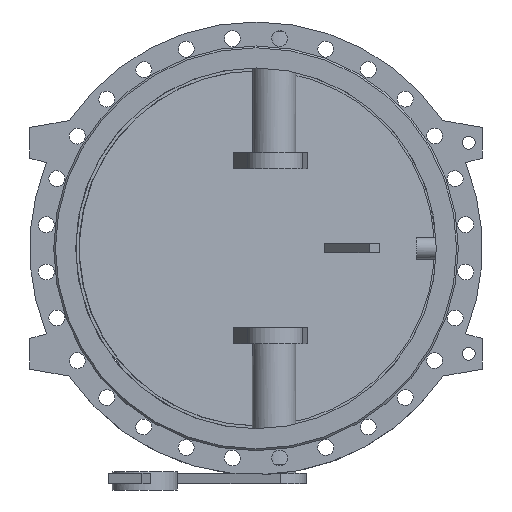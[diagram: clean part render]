
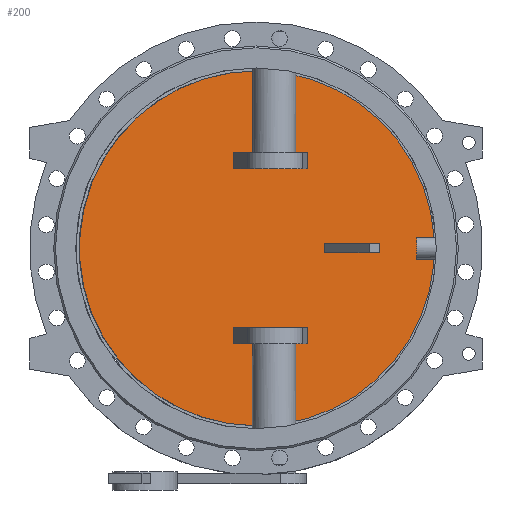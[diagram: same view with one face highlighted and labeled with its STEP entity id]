
A CAD part, front view. The second image highlights one B-rep face of the part: STEP entity #200.
In plain terms, the highlighted planar face has unit normal (0.131, -0.991, 0).
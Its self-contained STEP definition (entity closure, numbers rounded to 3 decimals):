
#200=ADVANCED_FACE('',(#1592,#1594,#1596,#1598),#1600,.T.);
#1592=FACE_BOUND('',#1593,.T.);
#1593=EDGE_LOOP('',(#3110));
#1594=FACE_BOUND('',#1595,.T.);
#1595=EDGE_LOOP('',(#3111,#3112,#3113,#3114));
#1596=FACE_BOUND('',#1597,.T.);
#1597=EDGE_LOOP('',(#3115,#3116,#3117,#3118));
#1598=FACE_BOUND('',#1599,.T.);
#1599=EDGE_LOOP('',(#3119,#3120,#3121,#3122));
#1600=PLANE('',#1601);
#1601=AXIS2_PLACEMENT_3D('',#1602,#1603,#1604);
#1602=CARTESIAN_POINT('',(-1.272,9.66,0.));
#1603=DIRECTION('',(0.131,-0.991,0.));
#1604=DIRECTION('',(0.,0.,-1.));
#3110=ORIENTED_EDGE('',*,*,#3745,.T.);
#3111=ORIENTED_EDGE('',*,*,#3749,.F.);
#3112=ORIENTED_EDGE('',*,*,#3750,.F.);
#3113=ORIENTED_EDGE('',*,*,#3751,.F.);
#3114=ORIENTED_EDGE('',*,*,#3752,.F.);
#3115=ORIENTED_EDGE('',*,*,#3753,.F.);
#3116=ORIENTED_EDGE('',*,*,#3754,.F.);
#3117=ORIENTED_EDGE('',*,*,#3755,.F.);
#3118=ORIENTED_EDGE('',*,*,#3756,.F.);
#3119=ORIENTED_EDGE('',*,*,#3757,.F.);
#3120=ORIENTED_EDGE('',*,*,#3758,.F.);
#3121=ORIENTED_EDGE('',*,*,#3759,.F.);
#3122=ORIENTED_EDGE('',*,*,#3760,.F.);
#3745=EDGE_CURVE('',#4099,#4099,#4100,.T.);
#3749=EDGE_CURVE('',#4107,#4108,#4109,.T.);
#3750=EDGE_CURVE('',#4110,#4107,#4111,.F.);
#3751=EDGE_CURVE('',#4112,#4110,#4113,.T.);
#3752=EDGE_CURVE('',#4108,#4112,#4114,.T.);
#3753=EDGE_CURVE('',#4115,#4116,#4117,.F.);
#3754=EDGE_CURVE('',#4118,#4115,#4119,.T.);
#3755=EDGE_CURVE('',#4120,#4118,#4121,.T.);
#3756=EDGE_CURVE('',#4116,#4120,#4122,.T.);
#3757=EDGE_CURVE('',#4123,#4124,#4125,.T.);
#3758=EDGE_CURVE('',#4126,#4123,#4127,.F.);
#3759=EDGE_CURVE('',#4128,#4126,#4129,.F.);
#3760=EDGE_CURVE('',#4124,#4128,#4130,.F.);
#4099=VERTEX_POINT('',#5310);
#4100=B_SPLINE_CURVE_WITH_KNOTS('',3,
(#5311,#5312,#5313,#5314,#5315,#5316,#5317,#5318,#5319,#5320,#5321,#5322,#5323,#5324,
#5325,#5326,#5327,#5328,#5329,#5330,#5331,#5332,#5333,#5334,#5335,#5336,#5337,#5338,
#5339,#5340,#5341,#5342,#5343,#5344,#5345,#5346,#5347,#5348,#5349,#5350,#5351,#5352,
#5353,#5354,#5355,#5356,#5357,#5358,#5359,#5360,#5361),
.UNSPECIFIED.,.T.,.F.,
(4,1,1,1,1,1,1,1,1,1,1,1,1,1,1,1,1,1,1,1,1,1,1,1,1,1,1,1,1,1,1,1,1,1,1,1,1,1,1,1,
1,1,1,1,1,1,1,1,4),
(0.,0.021,0.042,0.063,0.084,
0.105,0.126,0.147,0.168,0.189,
0.211,0.232,0.253,0.274,0.295,
0.316,0.337,0.358,0.379,0.4,
0.421,0.442,0.463,0.484,0.505,
0.527,0.548,0.569,0.59,0.611,
0.632,0.653,0.674,0.695,0.716,
0.737,0.758,0.779,0.8,0.821,
0.842,0.864,0.885,0.906,0.927,
0.948,0.969,0.986,1.),
.UNSPECIFIED.);
#4107=VERTEX_POINT('',#5424);
#4108=VERTEX_POINT('',#5425);
#4109=LINE('',#5426,#5427);
#4110=VERTEX_POINT('',#5429);
#4111=LINE('',#5430,#5431);
#4112=VERTEX_POINT('',#5433);
#4113=LINE('',#5434,#5435);
#4114=LINE('',#5437,#5438);
#4115=VERTEX_POINT('',#5440);
#4116=VERTEX_POINT('',#5441);
#4117=LINE('',#5442,#5443);
#4118=VERTEX_POINT('',#5445);
#4119=LINE('',#5446,#5447);
#4120=VERTEX_POINT('',#5449);
#4121=LINE('',#5450,#5451);
#4122=LINE('',#5453,#5454);
#4123=VERTEX_POINT('',#5456);
#4124=VERTEX_POINT('',#5457);
#4125=LINE('',#5458,#5459);
#4126=VERTEX_POINT('',#5461);
#4127=LINE('',#5462,#5463);
#4128=VERTEX_POINT('',#5465);
#4129=LINE('',#5466,#5467);
#4130=LINE('',#5469,#5470);
#5310=CARTESIAN_POINT('',(2.611,10.171,492.));
#5311=CARTESIAN_POINT('',(2.611,10.171,492.));
#5312=CARTESIAN_POINT('',(-19.012,7.324,492.));
#5313=CARTESIAN_POINT('',(-62.309,1.624,489.142));
#5314=CARTESIAN_POINT('',(-126.205,-6.788,476.332));
#5315=CARTESIAN_POINT('',(-187.936,-14.915,455.176));
#5316=CARTESIAN_POINT('',(-246.369,-22.608,426.038));
#5317=CARTESIAN_POINT('',(-300.428,-29.725,389.455));
#5318=CARTESIAN_POINT('',(-349.181,-36.143,346.062));
#5319=CARTESIAN_POINT('',(-391.774,-41.751,296.622));
#5320=CARTESIAN_POINT('',(-427.467,-46.45,242.002));
#5321=CARTESIAN_POINT('',(-455.638,-50.159,183.158));
#5322=CARTESIAN_POINT('',(-475.798,-52.813,121.116));
#5323=CARTESIAN_POINT('',(-487.596,-54.366,56.961));
#5324=CARTESIAN_POINT('',(-490.827,-54.791,-8.188));
#5325=CARTESIAN_POINT('',(-485.436,-54.081,-73.196));
#5326=CARTESIAN_POINT('',(-471.514,-52.249,-136.927));
#5327=CARTESIAN_POINT('',(-449.304,-49.325,-198.269));
#5328=CARTESIAN_POINT('',(-419.191,-45.36,-256.152));
#5329=CARTESIAN_POINT('',(-381.699,-40.424,-309.562));
#5330=CARTESIAN_POINT('',(-337.48,-34.603,-357.565));
#5331=CARTESIAN_POINT('',(-287.304,-27.997,-399.319));
#5332=CARTESIAN_POINT('',(-232.047,-20.722,-434.089));
#5333=CARTESIAN_POINT('',(-172.677,-12.906,-461.265));
#5334=CARTESIAN_POINT('',(-110.233,-4.685,-480.368));
#5335=CARTESIAN_POINT('',(-45.809,3.797,-491.059));
#5336=CARTESIAN_POINT('',(19.464,12.39,-493.152));
#5337=CARTESIAN_POINT('',(84.44,20.944,-486.61));
#5338=CARTESIAN_POINT('',(147.979,29.309,-471.547));
#5339=CARTESIAN_POINT('',(208.967,37.338,-448.231));
#5340=CARTESIAN_POINT('',(266.336,44.891,-417.073));
#5341=CARTESIAN_POINT('',(319.083,51.836,-378.622));
#5342=CARTESIAN_POINT('',(366.287,58.05,-333.553));
#5343=CARTESIAN_POINT('',(407.125,63.426,-282.656));
#5344=CARTESIAN_POINT('',(440.885,67.871,-226.824));
#5345=CARTESIAN_POINT('',(466.982,71.307,-167.032));
#5346=CARTESIAN_POINT('',(484.96,73.674,-104.325));
#5347=CARTESIAN_POINT('',(494.509,74.931,-39.798));
#5348=CARTESIAN_POINT('',(495.461,75.056,25.425));
#5349=CARTESIAN_POINT('',(487.8,74.048,90.205));
#5350=CARTESIAN_POINT('',(471.659,71.923,153.412));
#5351=CARTESIAN_POINT('',(447.318,68.718,213.942));
#5352=CARTESIAN_POINT('',(415.199,64.489,270.739));
#5353=CARTESIAN_POINT('',(375.861,59.31,322.807));
#5354=CARTESIAN_POINT('',(329.986,53.271,369.238));
#5355=CARTESIAN_POINT('',(278.391,46.478,409.203));
#5356=CARTESIAN_POINT('',(222.038,39.059,441.974));
#5357=CARTESIAN_POINT('',(161.743,31.121,467.086));
#5358=CARTESIAN_POINT('',(102.274,23.292,483.041));
#5359=CARTESIAN_POINT('',(48.806,16.253,490.619));
#5360=CARTESIAN_POINT('',(16.729,12.03,492.));
#5361=CARTESIAN_POINT('',(2.611,10.171,492.));
#5424=CARTESIAN_POINT('',(318.888,51.81,-12.5));
#5425=CARTESIAN_POINT('',(318.888,51.81,12.5));
#5426=CARTESIAN_POINT('',(318.888,51.81,-12.5));
#5427=VECTOR('',#5428,1.);
#5428=DIRECTION('',(0.,0.,1.));
#5429=CARTESIAN_POINT('',(190.,34.841,-12.5));
#5430=CARTESIAN_POINT('',(318.888,51.81,-12.5));
#5431=VECTOR('',#5432,1.);
#5432=DIRECTION('',(-0.991,-0.131,0.));
#5433=CARTESIAN_POINT('',(190.,34.841,12.5));
#5434=CARTESIAN_POINT('',(190.,34.841,12.5));
#5435=VECTOR('',#5436,1.);
#5436=DIRECTION('',(0.,0.,-1.));
#5437=CARTESIAN_POINT('',(318.888,51.81,12.5));
#5438=VECTOR('',#5439,1.);
#5439=DIRECTION('',(-0.991,-0.131,0.));
#5440=CARTESIAN_POINT('',(-62.127,1.648,-265.));
#5441=CARTESIAN_POINT('',(142.351,28.568,-265.));
#5442=CARTESIAN_POINT('',(142.351,28.568,-265.));
#5443=VECTOR('',#5444,1.);
#5444=DIRECTION('',(-0.991,-0.131,0.));
#5445=CARTESIAN_POINT('',(-62.127,1.648,-220.));
#5446=CARTESIAN_POINT('',(-62.127,1.648,-220.));
#5447=VECTOR('',#5448,1.);
#5448=DIRECTION('',(0.,0.,-1.));
#5449=CARTESIAN_POINT('',(142.351,28.568,-220.));
#5450=CARTESIAN_POINT('',(142.351,28.568,-220.));
#5451=VECTOR('',#5452,1.);
#5452=DIRECTION('',(-0.991,-0.131,0.));
#5453=CARTESIAN_POINT('',(142.351,28.568,-265.));
#5454=VECTOR('',#5455,1.);
#5455=DIRECTION('',(0.,0.,1.));
#5456=CARTESIAN_POINT('',(142.351,28.568,265.));
#5457=CARTESIAN_POINT('',(-62.127,1.648,265.));
#5458=CARTESIAN_POINT('',(142.351,28.568,265.));
#5459=VECTOR('',#5460,1.);
#5460=DIRECTION('',(-0.991,-0.131,0.));
#5461=CARTESIAN_POINT('',(142.351,28.568,220.));
#5462=CARTESIAN_POINT('',(142.351,28.568,265.));
#5463=VECTOR('',#5464,1.);
#5464=DIRECTION('',(0.,0.,-1.));
#5465=CARTESIAN_POINT('',(-62.127,1.648,220.));
#5466=CARTESIAN_POINT('',(142.351,28.568,220.));
#5467=VECTOR('',#5468,1.);
#5468=DIRECTION('',(-0.991,-0.131,0.));
#5469=CARTESIAN_POINT('',(-62.127,1.648,220.));
#5470=VECTOR('',#5471,1.);
#5471=DIRECTION('',(0.,0.,1.));
